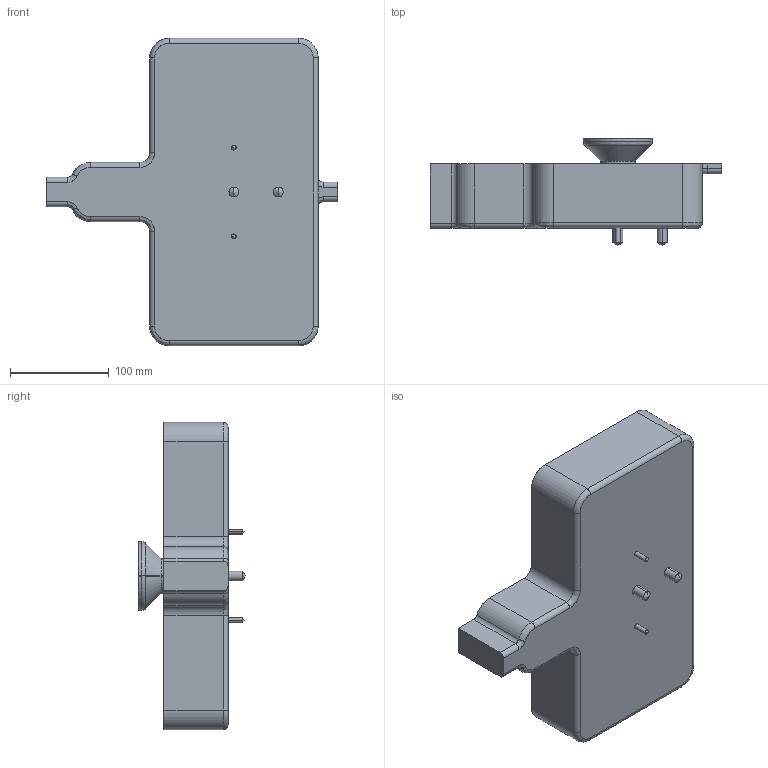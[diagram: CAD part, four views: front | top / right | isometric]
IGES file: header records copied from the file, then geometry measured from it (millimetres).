
Start section: SolidWorks IGES file using analytic representation for surfaces
Global section: file name: F:\CARTELLA CONDIVISA - 3D\01 - Piastre - 3D\Piastre Standard - Resistenza Sezione Quadrata 6x6\LP1-B08\Parte Multicorpo + Positivo Sede\CCLP1BQ-06T\SEDE CCLP1BQ-06T.IGS; native system: SolidWorks 2013; preprocessor: SolidWorks 2013; author: ws-20; date: 140131.084443; units: millimetre
Bounding box: 296 x 108.89 x 312 mm (x, y, z)
Surface area: 197991.1 mm2 (no closed solid volume)
Topology: 0 solids, 0 shells, 76 faces, 687 edges, 856 vertices
Faces by surface type: revolution 45, bspline 31
